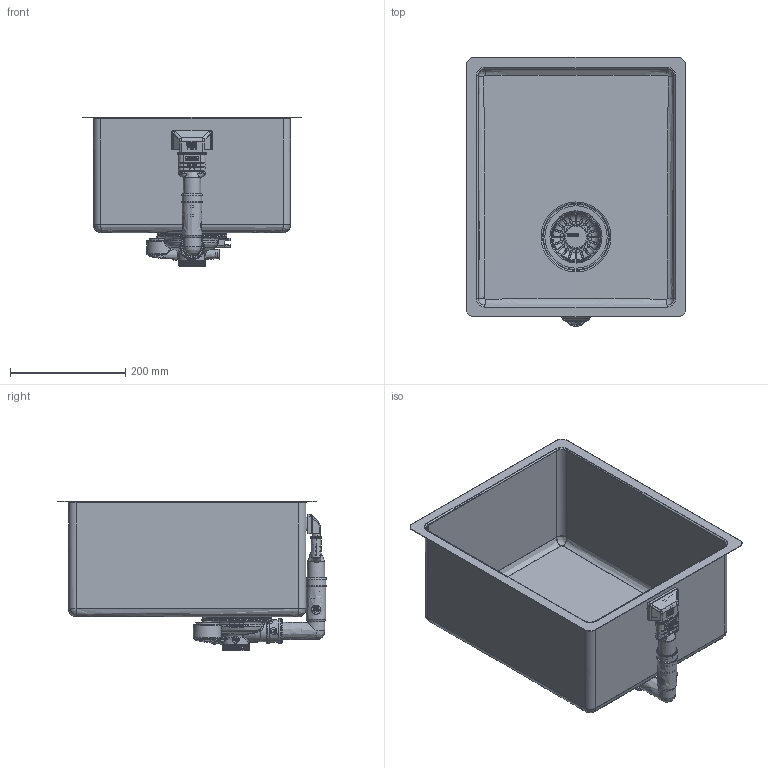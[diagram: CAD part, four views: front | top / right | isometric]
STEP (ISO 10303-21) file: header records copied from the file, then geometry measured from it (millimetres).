
FILE_DESCRIPTION(('STEP AP214'),'1');
FILE_NAME('J:/2016/CLX/FRANKE/materiale ricevuto/Sinks/Sinks/Franke Box/Requested/210_110 34/BXX_210_110_34.stp','2016-04-08T08:36:27',(' '),(' '),'Spatial InterOp 3D',' ',' ');
FILE_SCHEMA(('automotive_design'));
Length unit declared in the file: millimetre
Products named in the file (5): 1; 2; 3; 4; 5
Bounding box: 380 x 466.5 x 259.82 mm (x, y, z)
Volume: 629190.7 mm3; surface area: 1091851.7 mm2
Topology: 5 solids, 8 shells, 5587 faces, 15209 edges, 9856 vertices
Faces by surface type: bspline 5587
Entity records: 236804 total; most frequent: CARTESIAN_POINT 119606, ORIENTED_EDGE 29828, EDGE_CURVE 14914, DIRECTION 13802, VERTEX_POINT 9795, LINE 9474, VECTOR 9474, EDGE_LOOP 6153
